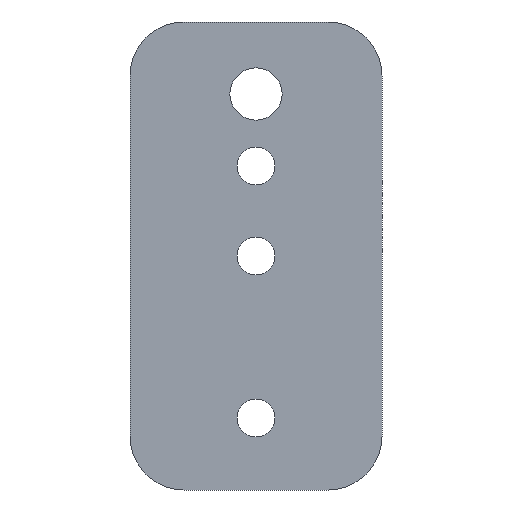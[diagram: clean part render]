
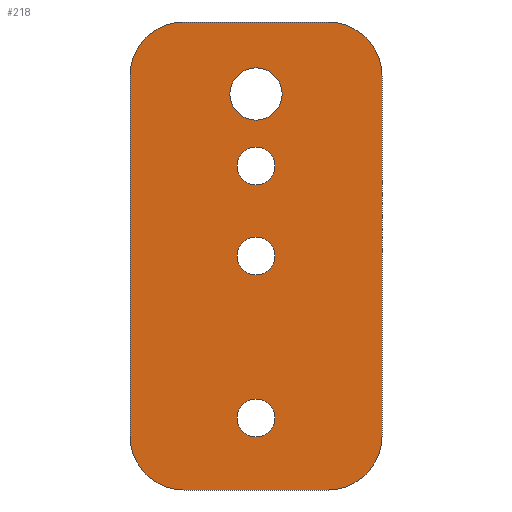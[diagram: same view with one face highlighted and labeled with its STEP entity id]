
A CAD part, front view. The second image highlights one B-rep face of the part: STEP entity #218.
In plain terms, the highlighted planar face has unit normal (0, -1, 0).
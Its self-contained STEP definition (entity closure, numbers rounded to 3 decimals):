
#22 = VERTEX_POINT('',#23);
#23 = CARTESIAN_POINT('',(164.,-248.8,390.));
#31 = EDGE_CURVE('',#22,#32,#34,.T.);
#32 = VERTEX_POINT('',#33);
#33 = CARTESIAN_POINT('',(180.,-248.8,390.));
#34 = LINE('',#35,#36);
#35 = CARTESIAN_POINT('',(164.,-248.8,390.));
#36 = VECTOR('',#37,1.);
#37 = DIRECTION('',(1.,0.,-0.));
#71 = VERTEX_POINT('',#72);
#72 = CARTESIAN_POINT('',(158.,-248.8,384.));
#78 = EDGE_CURVE('',#71,#22,#79,.T.);
#79 = CIRCLE('',#80,6.);
#80 = AXIS2_PLACEMENT_3D('',#81,#82,#83);
#81 = CARTESIAN_POINT('',(164.,-248.8,384.));
#82 = DIRECTION('',(0.,1.,0.));
#83 = DIRECTION('',(0.,-0.,1.));
#199 = EDGE_CURVE('',#32,#200,#202,.T.);
#200 = VERTEX_POINT('',#201);
#201 = CARTESIAN_POINT('',(186.,-248.8,384.));
#202 = CIRCLE('',#203,6.);
#203 = AXIS2_PLACEMENT_3D('',#204,#205,#206);
#204 = CARTESIAN_POINT('',(180.,-248.8,384.));
#205 = DIRECTION('',(0.,1.,0.));
#206 = DIRECTION('',(0.,-0.,1.));
#218 = ADVANCED_FACE('',(#219,#264,#275,#286,#297),#308,.T.);
#219 = FACE_BOUND('',#220,.T.);
#220 = EDGE_LOOP('',(#221,#231,#240,#246,#247,#248,#249,#257));
#221 = ORIENTED_EDGE('',*,*,#222,.T.);
#222 = EDGE_CURVE('',#223,#225,#227,.T.);
#223 = VERTEX_POINT('',#224);
#224 = CARTESIAN_POINT('',(164.,-248.8,338.));
#225 = VERTEX_POINT('',#226);
#226 = CARTESIAN_POINT('',(180.,-248.8,338.));
#227 = LINE('',#228,#229);
#228 = CARTESIAN_POINT('',(164.,-248.8,338.));
#229 = VECTOR('',#230,1.);
#230 = DIRECTION('',(1.,0.,-0.));
#231 = ORIENTED_EDGE('',*,*,#232,.F.);
#232 = EDGE_CURVE('',#233,#225,#235,.T.);
#233 = VERTEX_POINT('',#234);
#234 = CARTESIAN_POINT('',(186.,-248.8,344.));
#235 = CIRCLE('',#236,6.);
#236 = AXIS2_PLACEMENT_3D('',#237,#238,#239);
#237 = CARTESIAN_POINT('',(180.,-248.8,344.));
#238 = DIRECTION('',(0.,1.,0.));
#239 = DIRECTION('',(0.,-0.,1.));
#240 = ORIENTED_EDGE('',*,*,#241,.T.);
#241 = EDGE_CURVE('',#233,#200,#242,.T.);
#242 = LINE('',#243,#244);
#243 = CARTESIAN_POINT('',(186.,-248.8,344.));
#244 = VECTOR('',#245,1.);
#245 = DIRECTION('',(0.,0.,1.));
#246 = ORIENTED_EDGE('',*,*,#199,.F.);
#247 = ORIENTED_EDGE('',*,*,#31,.F.);
#248 = ORIENTED_EDGE('',*,*,#78,.F.);
#249 = ORIENTED_EDGE('',*,*,#250,.F.);
#250 = EDGE_CURVE('',#251,#71,#253,.T.);
#251 = VERTEX_POINT('',#252);
#252 = CARTESIAN_POINT('',(158.,-248.8,344.));
#253 = LINE('',#254,#255);
#254 = CARTESIAN_POINT('',(158.,-248.8,344.));
#255 = VECTOR('',#256,1.);
#256 = DIRECTION('',(0.,0.,1.));
#257 = ORIENTED_EDGE('',*,*,#258,.F.);
#258 = EDGE_CURVE('',#223,#251,#259,.T.);
#259 = CIRCLE('',#260,6.);
#260 = AXIS2_PLACEMENT_3D('',#261,#262,#263);
#261 = CARTESIAN_POINT('',(164.,-248.8,344.));
#262 = DIRECTION('',(0.,1.,0.));
#263 = DIRECTION('',(0.,-0.,1.));
#264 = FACE_BOUND('',#265,.T.);
#265 = EDGE_LOOP('',(#266));
#266 = ORIENTED_EDGE('',*,*,#267,.T.);
#267 = EDGE_CURVE('',#268,#268,#270,.T.);
#268 = VERTEX_POINT('',#269);
#269 = CARTESIAN_POINT('',(172.,-248.8,384.9));
#270 = CIRCLE('',#271,2.9);
#271 = AXIS2_PLACEMENT_3D('',#272,#273,#274);
#272 = CARTESIAN_POINT('',(172.,-248.8,382.));
#273 = DIRECTION('',(0.,1.,0.));
#274 = DIRECTION('',(0.,-0.,1.));
#275 = FACE_BOUND('',#276,.T.);
#276 = EDGE_LOOP('',(#277));
#277 = ORIENTED_EDGE('',*,*,#278,.T.);
#278 = EDGE_CURVE('',#279,#279,#281,.T.);
#279 = VERTEX_POINT('',#280);
#280 = CARTESIAN_POINT('',(172.,-248.8,376.1));
#281 = CIRCLE('',#282,2.1);
#282 = AXIS2_PLACEMENT_3D('',#283,#284,#285);
#283 = CARTESIAN_POINT('',(172.,-248.8,374.));
#284 = DIRECTION('',(0.,1.,0.));
#285 = DIRECTION('',(0.,-0.,1.));
#286 = FACE_BOUND('',#287,.T.);
#287 = EDGE_LOOP('',(#288));
#288 = ORIENTED_EDGE('',*,*,#289,.T.);
#289 = EDGE_CURVE('',#290,#290,#292,.T.);
#290 = VERTEX_POINT('',#291);
#291 = CARTESIAN_POINT('',(172.,-248.8,366.1));
#292 = CIRCLE('',#293,2.1);
#293 = AXIS2_PLACEMENT_3D('',#294,#295,#296);
#294 = CARTESIAN_POINT('',(172.,-248.8,364.));
#295 = DIRECTION('',(0.,1.,0.));
#296 = DIRECTION('',(0.,-0.,1.));
#297 = FACE_BOUND('',#298,.T.);
#298 = EDGE_LOOP('',(#299));
#299 = ORIENTED_EDGE('',*,*,#300,.T.);
#300 = EDGE_CURVE('',#301,#301,#303,.T.);
#301 = VERTEX_POINT('',#302);
#302 = CARTESIAN_POINT('',(172.,-248.8,348.1));
#303 = CIRCLE('',#304,2.1);
#304 = AXIS2_PLACEMENT_3D('',#305,#306,#307);
#305 = CARTESIAN_POINT('',(172.,-248.8,346.));
#306 = DIRECTION('',(0.,1.,0.));
#307 = DIRECTION('',(0.,-0.,1.));
#308 = PLANE('',#309);
#309 = AXIS2_PLACEMENT_3D('',#310,#311,#312);
#310 = CARTESIAN_POINT('',(172.,-248.8,364.));
#311 = DIRECTION('',(-0.,-1.,-0.));
#312 = DIRECTION('',(0.,0.,-1.));
